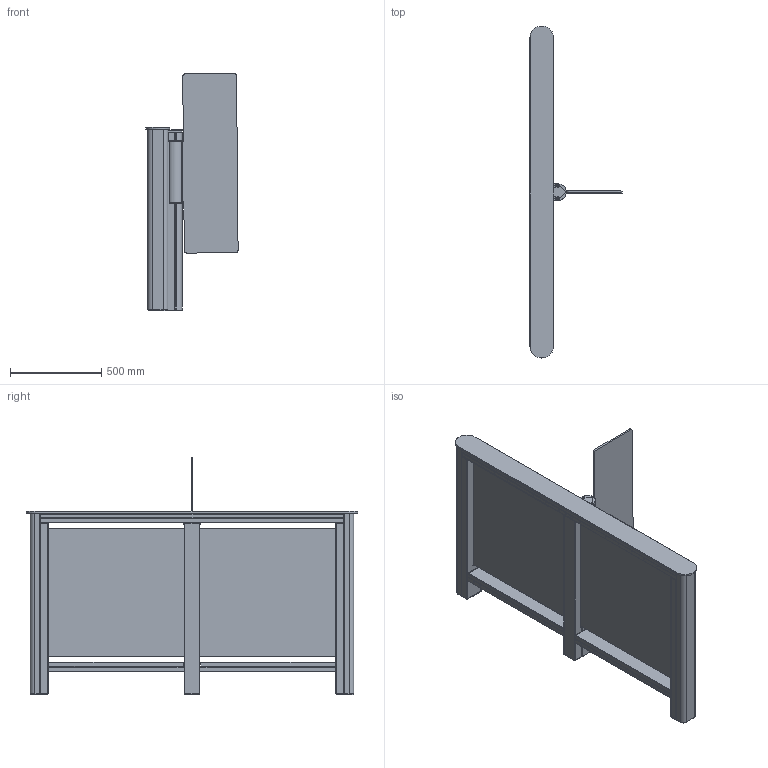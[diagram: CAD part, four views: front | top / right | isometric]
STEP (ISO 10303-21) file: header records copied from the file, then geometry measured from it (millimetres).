
FILE_DESCRIPTION(/* description */ ('Unknown'),/* implementation_level */ '2;1');
FILE_NAME(/* name */ 'ST-01_M_S_650H',/* time_stamp */ '2021-12-23T11:34:26+03:00',/* author */ ('Unknown'),/* organization */ ('Unknown'),/* preprocessor_version */ 'ST-DEVELOPER v18.1',/* originating_system */ 'Solid Edge',/* authorisation */ 'Unknown');
FILE_SCHEMA (('CONFIG_CONTROL_DESIGN'));
Products named in the file (113): ST-01_M_S; ST-01.1.006.00 砎魤鍱_oa_0; ST-01.1.002.00 栺鍣罻_oa_1; ST-01.1.002.02 砑僔蠂縺; ST-01.1.005.08 扻豵鵨; ST-01.1.031.00 沓劌錪 瀔魤鍱趌oa_2; ST-01.1.036.00 昜闉趌oa_3; BG65x25+PLG52+mufta_oa_4; ST-01.045.00ﾑﾁ ﾊ濱oa_5; ST-01.046.00 ﾊ濱oa_6; ST-01.046.09 Êîæóõ-Ïî óìîë÷àíèþ; ST-01.047.00 扰鍙欙樥燲oa_7; ST-01.760.00 Ïëàòà ýëåêòðîïðèâîäà_oa_8; ST-01.920.00 Êàáåëü ñîåäèíåíèÿ CAN; ST-01.1.004.00捘 昜闉趌oa_9; ST-01.008.00 ﾊ濱oa_10; ST-01.008.05 Êîæóõ; ST-01.008.00 ﾊ濱oa_11; ST-01.900.00 Êàáåëü ñîåäèíåíèÿ  DC; Äæàìïåð MJ-0_13; 淟檍瀖睯貗; ST-01.1.010.00ﾑﾁ ﾊ濱oa_12; ST-01.740.00 Ïëàòà èíäèêàòîðíîé ñòîéêè_oa_13; ST-01.1.010.10 Ñòåêëî-Ïî óìîë÷àíèþ; ST-01.1.011.00 ﾊ濱oa_14; ST-01.1.011.05 署赅; ST-01.1.009.00捘 扻豵鵨_oa_15; ST-01.009.25 Êîæóõ; ST-01.1.009.07 扻豵鵨; ST-01.013.00 扻豂塺oa_16; ST-01.1.016.00 扻豂塺oa_17; ST-01.1.015.00 扻豂塺oa_18; ST-01.1.015.05 Êîðîá; Øïèëüêè ñáîðêà_oa_19; Øïèëüêè ñáîðêà_oa_20; Øïèëüêè ñáîðêà 2_oa_21; Øïèëüêè ñáîðêà 2_oa_22; Øïèëüêè ñáîðêà_oa_23; Øïèëüêè ñáîðêà_oa_24; Øïèëüêè ñáîðêà 2_oa_25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
Assembly tree (137 placements, depth 5):
  ST-01_M_S
    ST-01.1.006.00 砎魤鍱_oa_0
      ST-01.1.002.00 栺鍣罻_oa_1
        ST-01.1.002.02 砑僔蠂縺
      ST-01.1.005.08 扻豵鵨
      ST-01.1.031.00 沓劌錪 瀔魤鍱趌oa_2
        ST-01.1.036.00 昜闉趌oa_3
        BG65x25+PLG52+mufta_oa_4
      ST-01.045.00ﾑﾁ ﾊ濱oa_5
        ST-01.046.00 ﾊ濱oa_6
          ST-01.046.09 Êîæóõ-Ïî óìîë÷àíèþ
        ST-01.047.00 扰鍙欙樥燲oa_7
      ST-01.760.00 Ïëàòà ýëåêòðîïðèâîäà_oa_8
      ST-01.920.00 Êàáåëü ñîåäèíåíèÿ CAN
      ST-01.1.004.00捘 昜闉趌oa_9
      ST-01.008.00 ﾊ濱oa_10
        ST-01.008.05 Êîæóõ
      ST-01.008.00 ﾊ濱oa_11
        ST-01.008.05 Êîæóõ
      ST-01.900.00 Êàáåëü ñîåäèíåíèÿ  DC
      Äæàìïåð MJ-0_13
      淟檍瀖睯貗  x3
    ST-01.1.010.00ﾑﾁ ﾊ濱oa_12
      ST-01.740.00 Ïëàòà èíäèêàòîðíîé ñòîéêè_oa_13
      ST-01.1.010.10 Ñòåêëî-Ïî óìîë÷àíèþ
      ST-01.1.011.00 ﾊ濱oa_14
        ST-01.1.011.05 署赅
      ST-01.1.009.00捘 扻豵鵨_oa_15
        ST-01.009.25 Êîæóõ
        ST-01.1.009.07 扻豵鵨
    ST-01.013.00 扻豂塺oa_16
      ST-01.1.016.00 扻豂塺oa_17
        ST-01.1.015.00 扻豂塺oa_18
          ST-01.1.015.05 Êîðîá
          Øïèëüêè ñáîðêà_oa_19
          Øïèëüêè ñáîðêà_oa_20
          Øïèëüêè ñáîðêà 2_oa_21
          Øïèëüêè ñáîðêà 2_oa_22
          Øïèëüêè ñáîðêà_oa_23
          Øïèëüêè ñáîðêà_oa_24
          Øïèëüêè ñáîðêà 2_oa_25
          Øïèëüêè ñáîðêà 2_oa_26
          Øïèëüêà âèðò
        ST-01.016.05 Êîðîá--01
      ST-01.017.00 Ïëàñòèíà â ñáîðå_oa_27
      ST-01.706.00 Ïëàòà ïðèåìíèêîâ_oa_28
      ST-01.706.00 Ïëàòà ïðèåìíèêîâ_oa_29
      ST-01.716.00 Ïëàòà ïðèåìíèêîâ_oa_30
      ST-01.716.00 Ïëàòà ïðèåìíèêîâ_oa_31
      ST-01.050.15 Ïëàñòèíà (ñâåòîôèëüòð)-795  x2
      Ëåíòà ìîíòàíæíàÿ äâóñòîðîííÿÿ 9473PC VHB 19 ìì_âèðò
      ST-01.014.00 扻豂塺oa_32
      ST-01.910.00 忺摎錪 膰豂摳 CAN_睯貗  x4
      ST-01.910.00-01 忺摎錪 膰豂摳 CAN_睯貗
      ST-01.910.00-02 忺摎錪 膰豂摳 CAN_睯貗  x3
      ST-01.931.00 忺摎錪 襜贀槻鍣 鴈儰罻灕醂睯貗
      ST-01.932.00 Êàáåëü èíäèêàöèè ñòîéêè_âèðò
      ST-01.940.00 Êàáåëü èíäèêàöèè ïðîõîäà_âèðò
      淟檍瀖睯貗  x5
      ST-01.050.15 Ïëàñòèíà (ñâåòîôèëüòð)-1662
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Bounding box: 505.19 x 1820 x 1300.88 mm (x, y, z)
Volume: 18902128.9 mm3; surface area: 9447404.6 mm2
Topology: 39 solids, 39 shells, 2766 faces, 7254 edges, 4537 vertices
Faces by surface type: plane 1974, cylinder 652, bspline 112, cone 28
Full cylindrical faces by diameter (mm): 3.3 x46, 3.5 x8, 4 x4, 5 x104, 5.5 x6, 6 x4, 7 x17, 11 x15, 12 x13, 13.5 x2, 16 x4, 87 x1
Entity records: 71064 total; most frequent: CARTESIAN_POINT 15045, ORIENTED_EDGE 11036, DIRECTION 10708, EDGE_CURVE 5518, LINE 4268, VECTOR 4268, VERTEX_POINT 3566, AXIS2_PLACEMENT_3D 3220
